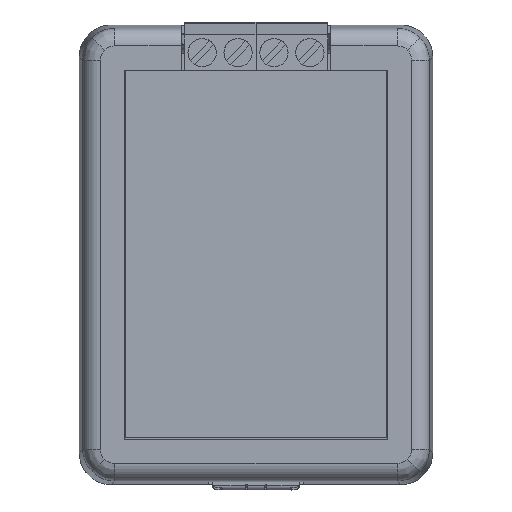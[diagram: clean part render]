
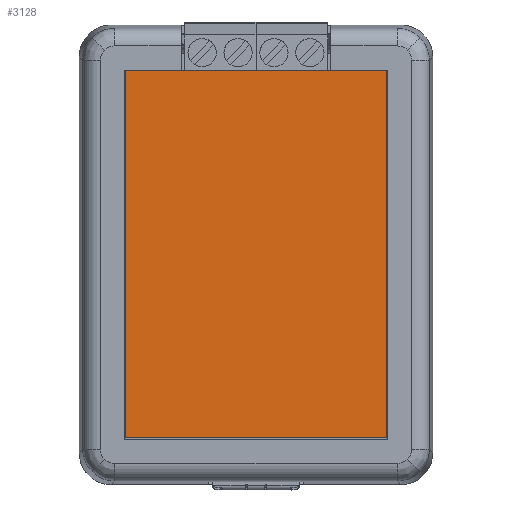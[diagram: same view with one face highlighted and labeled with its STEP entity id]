
A CAD part, top view. The second image highlights one B-rep face of the part: STEP entity #3128.
In plain terms, the highlighted planar face has unit normal (0, 0, 1).
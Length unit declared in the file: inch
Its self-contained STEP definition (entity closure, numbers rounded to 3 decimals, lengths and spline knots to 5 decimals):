
#2141 = CARTESIAN_POINT ( 'NONE',  ( 0.72835, -1.02362, 0.01 ) ) ;
#3000 = VERTEX_POINT ( 'NONE', #69463 ) ;
#3128 = ADVANCED_FACE ( 'NONE', ( #28542 ), #48552, .F. ) ;
#6332 = VECTOR ( 'NONE', #16382, 39.37008 ) ;
#6559 = EDGE_CURVE ( 'NONE', #33267, #3000, #26072, .T. ) ;
#7894 = CARTESIAN_POINT ( 'NONE',  ( -0.72835, -1.02362, 0.01 ) ) ;
#9947 = LINE ( 'NONE', #51426, #6332 ) ;
#10497 = VECTOR ( 'NONE', #70280, 39.37008 ) ;
#13493 = CARTESIAN_POINT ( 'NONE',  ( 0., 0., 0.01 ) ) ;
#16382 = DIRECTION ( 'NONE',  ( 1., 0., 0. ) ) ;
#17603 = CARTESIAN_POINT ( 'NONE',  ( -0.72835, -1.02362, 0.01 ) ) ;
#19231 = EDGE_CURVE ( 'NONE', #52412, #72169, #42456, .T. ) ;
#19424 = DIRECTION ( 'NONE',  ( -1., 0., 0. ) ) ;
#23871 = ORIENTED_EDGE ( 'NONE', *, *, #19231, .T. ) ;
#25500 = CARTESIAN_POINT ( 'NONE',  ( 0.72835, 1.02362, 0.01 ) ) ;
#26072 = LINE ( 'NONE', #17603, #10497 ) ;
#28542 = FACE_OUTER_BOUND ( 'NONE', #46245, .T. ) ;
#30274 = ORIENTED_EDGE ( 'NONE', *, *, #60851, .F. ) ;
#31877 = EDGE_CURVE ( 'NONE', #33267, #52412, #68753, .T. ) ;
#33267 = VERTEX_POINT ( 'NONE', #7894 ) ;
#38932 = ORIENTED_EDGE ( 'NONE', *, *, #31877, .T. ) ;
#42456 = LINE ( 'NONE', #69078, #69884 ) ;
#46245 = EDGE_LOOP ( 'NONE', ( #63504, #38932, #23871, #30274 ) ) ;
#48552 = PLANE ( 'NONE',  #65638 ) ;
#50081 = CARTESIAN_POINT ( 'NONE',  ( -0.72835, -1.02362, 0.01 ) ) ;
#50331 = DIRECTION ( 'NONE',  ( 1., 0., 0. ) ) ;
#51426 = CARTESIAN_POINT ( 'NONE',  ( -0.72835, 1.02362, 0.01 ) ) ;
#51703 = DIRECTION ( 'NONE',  ( 0., 1., 0. ) ) ;
#52412 = VERTEX_POINT ( 'NONE', #2141 ) ;
#53186 = VECTOR ( 'NONE', #50331, 39.37008 ) ;
#54438 = DIRECTION ( 'NONE',  ( 0., 0., -1. ) ) ;
#60851 = EDGE_CURVE ( 'NONE', #3000, #72169, #9947, .T. ) ;
#63504 = ORIENTED_EDGE ( 'NONE', *, *, #6559, .F. ) ;
#65638 = AXIS2_PLACEMENT_3D ( 'NONE', #13493, #54438, #19424 ) ;
#68753 = LINE ( 'NONE', #50081, #53186 ) ;
#69078 = CARTESIAN_POINT ( 'NONE',  ( 0.72835, -1.02362, 0.01 ) ) ;
#69463 = CARTESIAN_POINT ( 'NONE',  ( -0.72835, 1.02362, 0.01 ) ) ;
#69884 = VECTOR ( 'NONE', #51703, 39.37008 ) ;
#70280 = DIRECTION ( 'NONE',  ( 0., 1., 0. ) ) ;
#72169 = VERTEX_POINT ( 'NONE', #25500 ) ;
